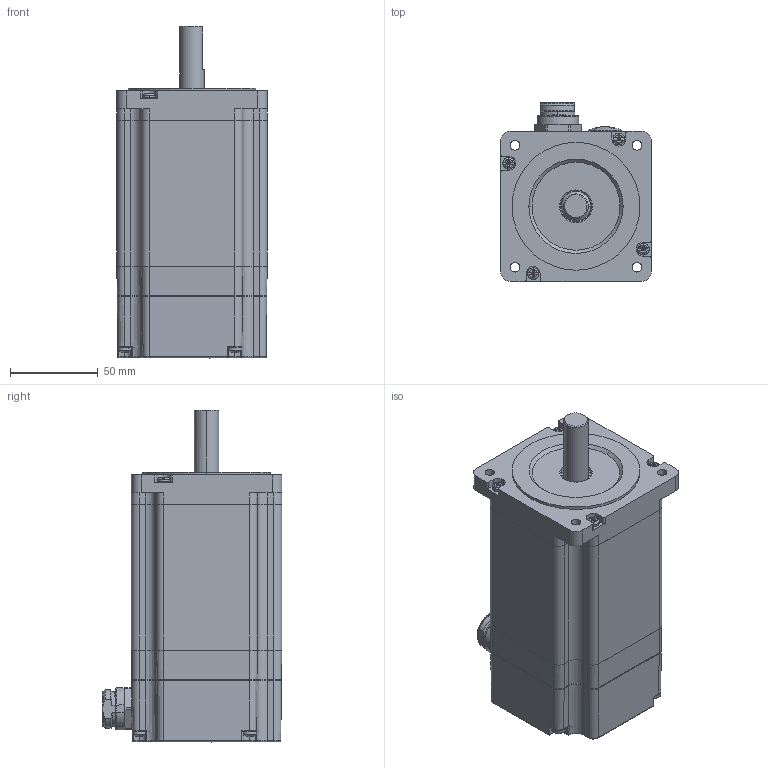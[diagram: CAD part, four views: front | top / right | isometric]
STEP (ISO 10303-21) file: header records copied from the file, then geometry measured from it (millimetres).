
FILE_DESCRIPTION (( 'STEP AP214' ), '1' );
FILE_NAME ('M86SH118-T-C.STEP', '2025-05-24T08:48:29', ( '' ), ( '' ), 'SwSTEP 2.0', 'SolidWorks 2019', '' );
FILE_SCHEMA (( 'AUTOMOTIVE_DESIGN' ));
Length unit declared in the file: millimetre
Products named in the file (1): M86SH118-T-C
Bounding box: 85.9 x 102.59 x 189.55 mm (x, y, z)
Volume: 613133.4 mm3; surface area: 190953.1 mm2
Topology: 31 solids, 31 shells, 1588 faces, 4014 edges, 2584 vertices
Faces by surface type: plane 664, cylinder 424, cone 189, bspline 179, torus 116, sphere 16
Entity records: 74069 total; most frequent: CARTESIAN_POINT 18187, ORIENTED_EDGE 7996, DIRECTION 7796, EDGE_CURVE 3998, AXIS2_PLACEMENT_3D 2938, VERTEX_POINT 2584, VECTOR 1920, LINE 1920
